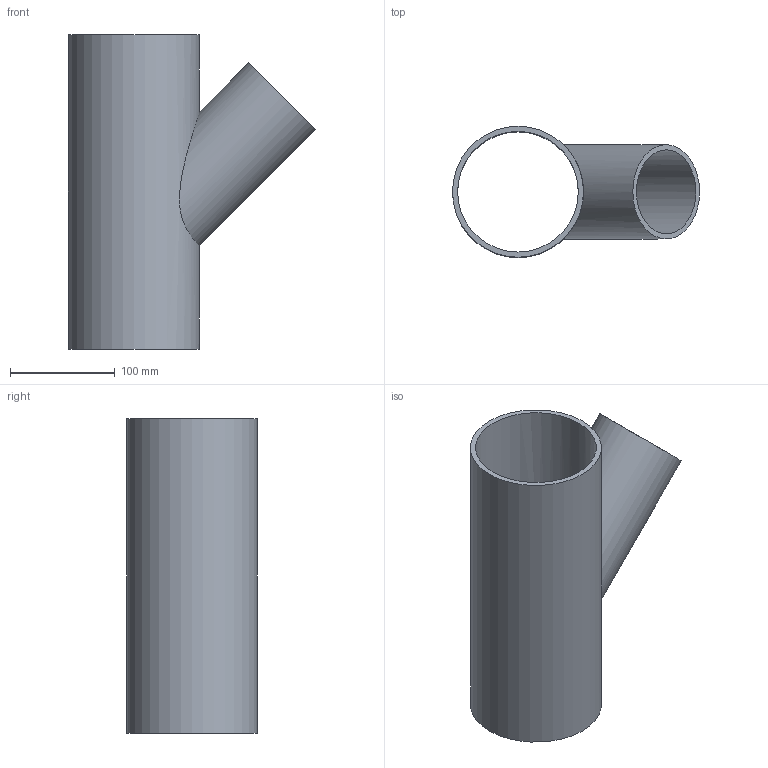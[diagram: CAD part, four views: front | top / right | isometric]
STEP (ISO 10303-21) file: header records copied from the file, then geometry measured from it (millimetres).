
FILE_DESCRIPTION(/* description */ (''),/* implementation_level */ '2;1');
FILE_NAME(/* name */ 'C:\Planerdaten\Export PLA\PRO_101557\stp\368130.stp',/* time_stamp */ '2021-09-30T15:07:21+02:00',/* author */ ('JANAN'),/* organization */ (''),/* preprocessor_version */ 'ST-DEVELOPER v16.13',/* originating_system */ 'Autodesk Inventor 2018',/* authorisation */ '');
FILE_SCHEMA (('AUTOMOTIVE_DESIGN { 1 0 10303 214 3 1 1 }'));
Length unit declared in the file: millimetre
Products named in the file (1): tmp8731.tmp
Bounding box: 235.74 x 125 x 300 mm (x, y, z)
Volume: 677999 mm3; surface area: 281790.2 mm2
Topology: 1 solids, 1 shells, 7 faces, 17 edges, 12 vertices
Faces by surface type: cylinder 4, plane 3
Full cylindrical faces by diameter (mm): 80.2 x1, 90 x1, 115.2 x1, 125 x1
Entity records: 336 total; most frequent: CARTESIAN_POINT 158, DIRECTION 28, EDGE_LOOP 16, ORIENTED_EDGE 16, AXIS2_PLACEMENT_3D 14, FACE_BOUND 9, VERTEX_POINT 8, EDGE_CURVE 8
